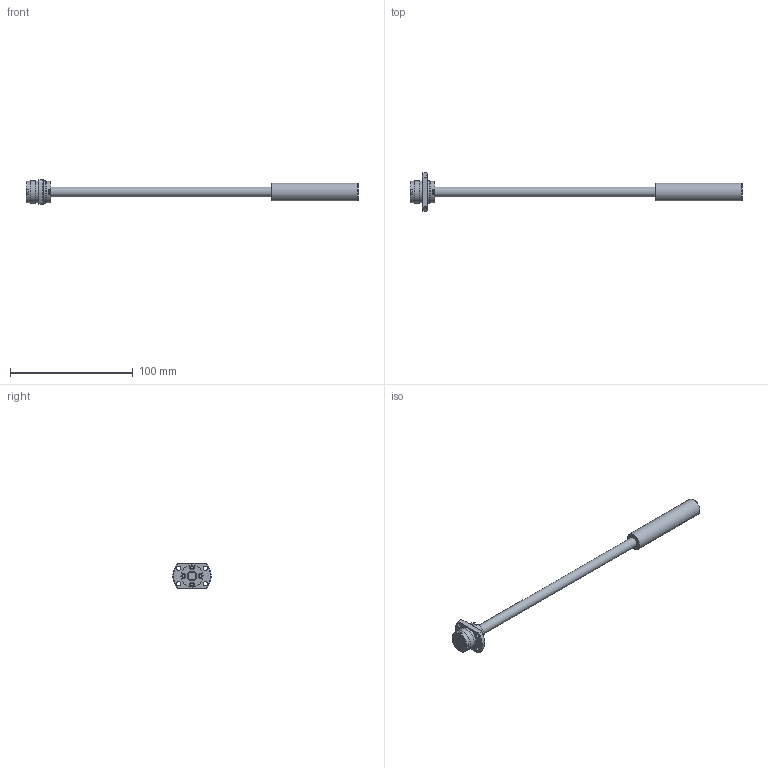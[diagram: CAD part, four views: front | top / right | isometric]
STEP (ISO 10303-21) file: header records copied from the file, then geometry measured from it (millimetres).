
FILE_DESCRIPTION( ( 'STEP AP203' ), '1' );
FILE_NAME( 'e:/temp/worker_106/temp/exporttempdir_5800_286_uFXZc/format_0/SRT0808-196R270C10A0X(0None).stp', '2021-10-19T05:33:50', ( 'License CC BY-ND 4.0' ), ( 'CADENAS' ), ' ', 'PARTsolutions', ' ' );
FILE_SCHEMA( ( 'CONFIG_CONTROL_DESIGN' ) );
Length unit declared in the file: millimetre
Products named in the file (3): SRT0808-196R270C10A0X(0None); _SRT0808-196R270ACt10NoneShaft; _SRT0808Nut
Assembly tree (2 placements, depth 2):
  SRT0808-196R270C10A0X(0None)
    _SRT0808-196R270ACt10NoneShaft
    _SRT0808Nut
Bounding box: 270 x 30.91 x 20 mm (x, y, z)
Volume: 26100.3 mm3; surface area: 11564 mm2
Topology: 2 solids, 2 shells, 138 faces, 332 edges, 220 vertices
Faces by surface type: plane 100, cylinder 30, cone 8
Full cylindrical faces by diameter (mm): 3 x8, 3.4 x4, 8 x2, 14.2 x1, 17.5 x2, 17.7 x1, 18 x2
Entity records: 4004 total; most frequent: CARTESIAN_POINT 689, DIRECTION 662, ORIENTED_EDGE 612, EDGE_CURVE 306, AXIS2_PLACEMENT_3D 223, VERTEX_POINT 218, LINE 216, VECTOR 216
